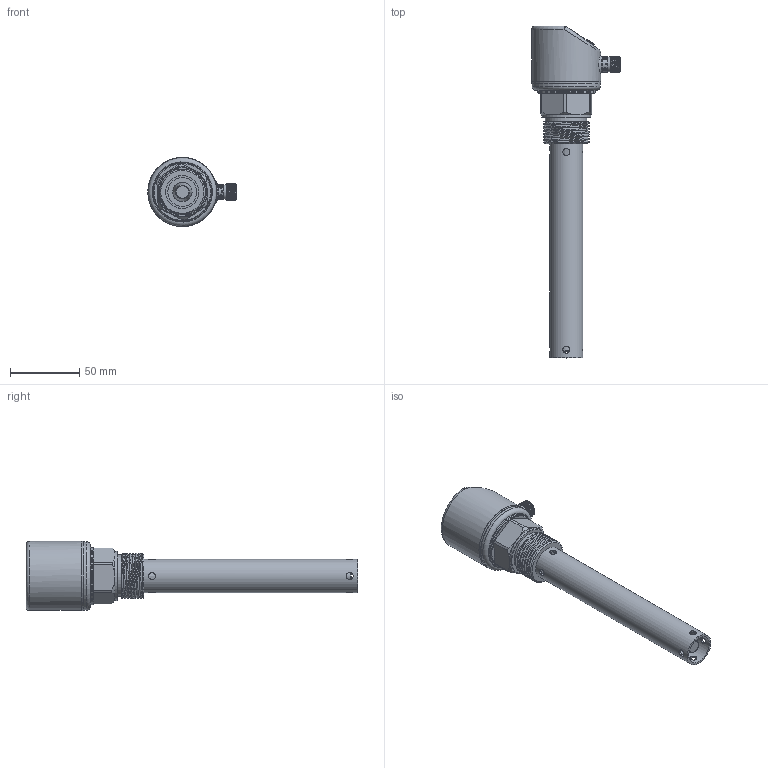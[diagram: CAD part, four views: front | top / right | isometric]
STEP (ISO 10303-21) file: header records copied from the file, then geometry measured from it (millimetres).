
FILE_DESCRIPTION (( 'STEP AP214' ), '1' );
FILE_NAME ('G1数显电容-150（同轴）.STEP', '2025-03-11T06:33:08', ( '' ), ( '' ), 'SwSTEP 2.0', 'SolidWorks 2020', '' );
FILE_SCHEMA (( 'AUTOMOTIVE_DESIGN' ));
Length unit declared in the file: millimetre
Products named in the file (9): 肮粣奪; 揤薯奻裔; 揤薯珆尨欶; G1数显电容-150（同轴）; 滅阨諉芛褲极1; G1̽ͷ; 抻芛ㄗ蟀哿講ㄘ; PVC躇猾菜; 偌瑩簽
Assembly tree (10 placements, depth 2):
  G1数显电容-150（同轴）
    揤薯奻裔
    揤薯珆尨欶
    滅阨諉芛褲极1
    偌瑩簽  x3
    PVC躇猾菜
    抻芛ㄗ蟀哿講ㄘ
    肮粣奪
    G1̽ͷ
Bounding box: 64 x 240.1 x 50 mm (x, y, z)
Volume: 76819.4 mm3; surface area: 61073.2 mm2
Topology: 10 solids, 10 shells, 321 faces, 759 edges, 491 vertices
Faces by surface type: plane 129, cylinder 118, cone 48, bspline 11, torus 11, sphere 4
Full cylindrical faces by diameter (mm): 1 x4, 1.2 x3, 1.8 x1, 2 x3, 2.5 x6, 2.8 x1, 4.3 x3, 4.5 x6, 5 x8, 6 x1, 7.2 x1, 8 x1, 8.5 x1, 9.75 x1, 10 x1, 10.49 x1, 10.5 x1, 10.8 x1, 10.9 x1, 11 x2, 12 x1, 21 x2, 24 x1, 30 x1, 35 x1, 35.5 x1, 42 x1, 43.9 x1, 45.4 x1, 45.6 x2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
Entity records: 13635 total; most frequent: CARTESIAN_POINT 6743, DIRECTION 1341, ORIENTED_EDGE 1134, EDGE_CURVE 567, AXIS2_PLACEMENT_3D 545, EDGE_LOOP 480, VERTEX_POINT 421, FACE_OUTER_BOUND 362
